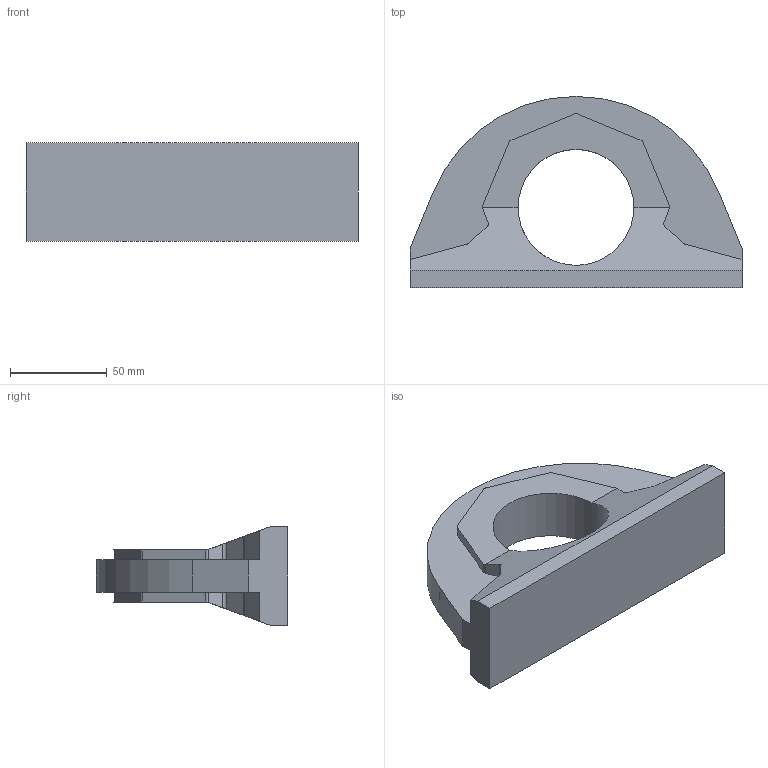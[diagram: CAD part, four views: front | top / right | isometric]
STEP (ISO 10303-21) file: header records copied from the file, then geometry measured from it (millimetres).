
FILE_DESCRIPTION(/* description */ ('STEP AP214'),/* implementation_level */ '2;1');
FILE_NAME(/* name */ 'Lifting point GN 589-172',/* time_stamp */ '2023-10-25T14:17:23+02:00',/* author */ ('License CC BY-ND 4.0'),/* organization */ ('CADENAS'),/* preprocessor_version */ 'ST-DEVELOPER v19.3',/* originating_system */ 'PARTsolutions',/* authorisation */ ' ');
FILE_SCHEMA (('AUTOMOTIVE_DESIGN {1 0 10303 214 3 1 1}'));
Length unit declared in the file: millimetre
Products named in the file (1): Lifting point GN 589-172
Bounding box: 172 x 99 x 51 mm (x, y, z)
Volume: 318328.6 mm3; surface area: 46722 mm2
Topology: 1 solids, 1 shells, 53 faces, 158 edges, 105 vertices
Faces by surface type: plane 33, cylinder 20
Full cylindrical faces by diameter (mm): 60 x1
Entity records: 1810 total; most frequent: CARTESIAN_POINT 314, ORIENTED_EDGE 312, DIRECTION 310, EDGE_CURVE 156, LINE 110, VECTOR 110, VERTEX_POINT 104, AXIS2_PLACEMENT_3D 100
